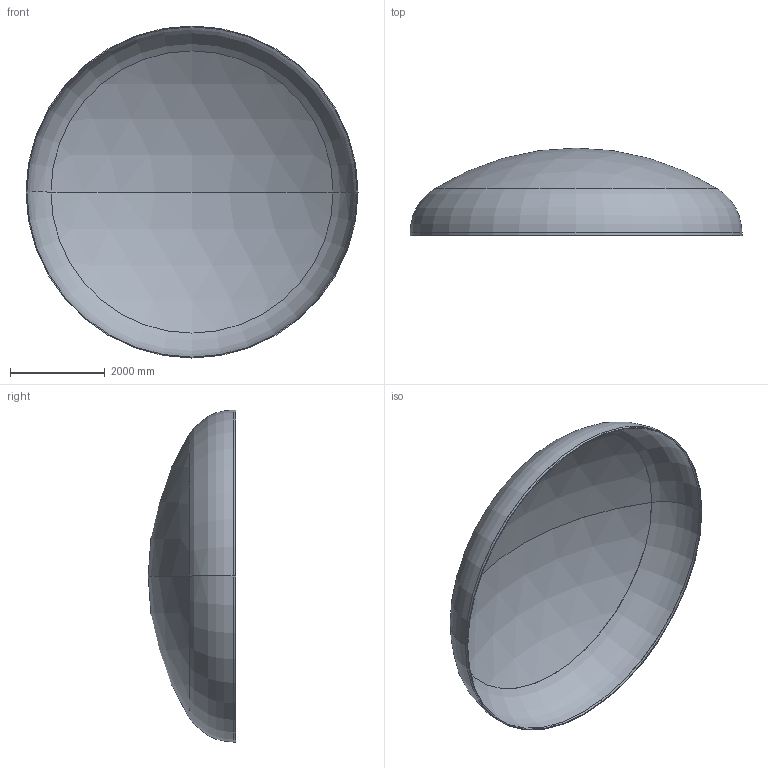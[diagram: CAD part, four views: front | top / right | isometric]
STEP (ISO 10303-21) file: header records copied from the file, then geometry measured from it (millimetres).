
FILE_DESCRIPTION (( 'STEP AP203' ), '1' );
FILE_NAME ('DIN 28013 Korbbogenform_-_Boden DIN 28013 - 7000 x 55 - I - s=18.step', '2016-07-04T10:45:37', ( '' ), ( '' ), 'SwSTEP 2.0', 'SolidWorks 2013', '' );
FILE_SCHEMA (( 'CONFIG_CONTROL_DESIGN' ));
Length unit declared in the file: millimetre
Products named in the file (1): DIN 28013 Korbbogenform_-_Boden DIN 28013 - 7000 x 55 - I - s=18
Bounding box: 7000 x 1844.06 x 7000 mm (x, y, z)
Volume: 978287995.4 mm3; surface area: 109094123 mm2
Topology: 1 solids, 1 shells, 13 faces, 24 edges, 14 vertices
Faces by surface type: torus 4, cylinder 4, sphere 4, plane 1
Entity records: 407 total; most frequent: DIRECTION 72, CARTESIAN_POINT 52, ORIENTED_EDGE 48, AXIS2_PLACEMENT_3D 34, EDGE_CURVE 24, CIRCLE 20, VERTEX_POINT 14, EDGE_LOOP 14
